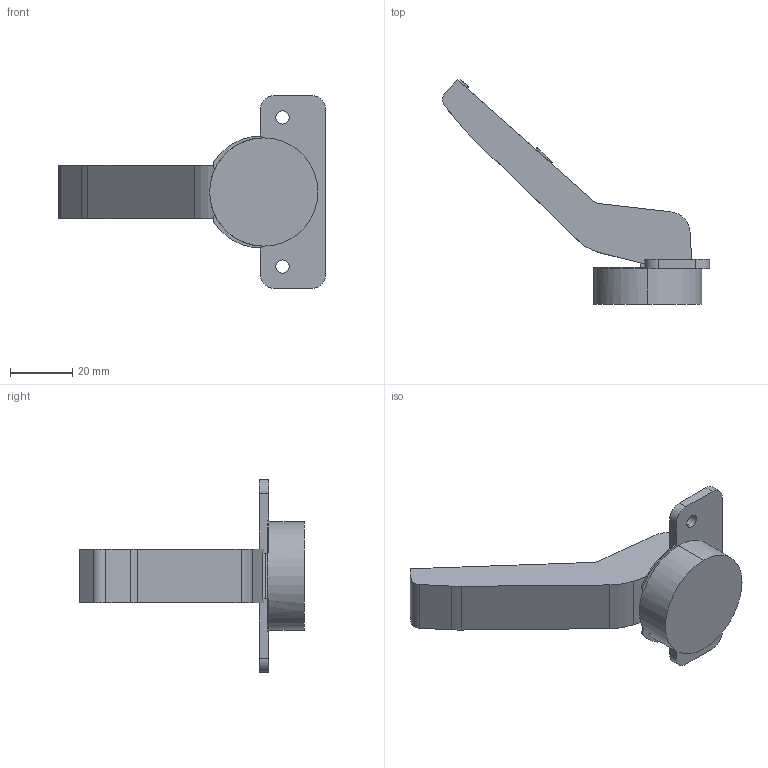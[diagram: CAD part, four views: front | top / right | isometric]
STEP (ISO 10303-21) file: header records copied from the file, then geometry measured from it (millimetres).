
FILE_DESCRIPTION (( 'STEP AP203' ), '1' );
FILE_NAME ('C82E276F-DTC 3D close.STEP', '2024-09-09T06:41:53', ( '微软用户' ), ( '微软中国' ), 'SwSTEP 2.0', 'SolidWorks 2021', '' );
FILE_SCHEMA (( 'CONFIG_CONTROL_DESIGN' ));
Length unit declared in the file: millimetre
Products named in the file (1): C82E276F-DTC 3D close
Bounding box: 85.92 x 72.31 x 61.96 mm (x, y, z)
Volume: 35867.6 mm3; surface area: 10810 mm2
Topology: 1 solids, 1 shells, 77 faces, 214 edges, 143 vertices
Faces by surface type: cylinder 36, plane 35, bspline 4, torus 2
Entity records: 2608 total; most frequent: CARTESIAN_POINT 540, ORIENTED_EDGE 428, DIRECTION 407, EDGE_CURVE 214, VERTEX_POINT 143, AXIS2_PLACEMENT_3D 142, LINE 123, VECTOR 123
